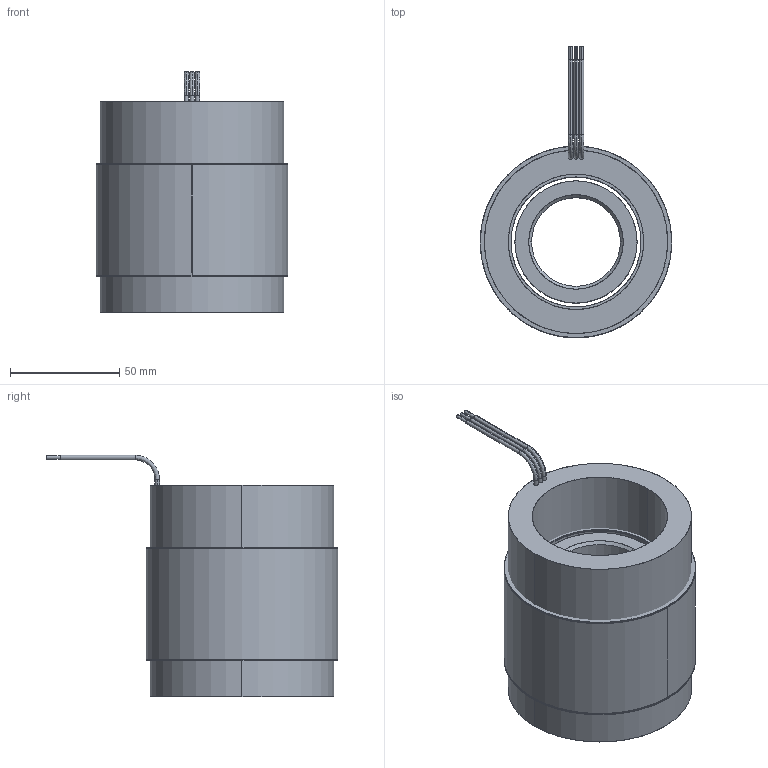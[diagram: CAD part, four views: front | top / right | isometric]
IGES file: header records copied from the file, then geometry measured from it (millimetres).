
Start section: SolidWorks IGES file using analytic representation for surfaces
Global section: file name: \\fs01.aveox.local\user documents\eng\My Documents\STANDARD STATOR ROTOR SETS\Standard rotor and stator set released\3.45 inch stator diameter\6100253-02.IGS; native system: SolidWorks 2016; preprocessor: SolidWorks 2016; author: eng; date: 191111.091958; units: millimetre
Bounding box: 87.63 x 133.34 x 110.49 mm (x, y, z)
Surface area: 124526.1 mm2 (no closed solid volume)
Topology: 0 solids, 0 shells, 91 faces, 2424 edges, 2424 vertices
Faces by surface type: revolution 65, bspline 26
